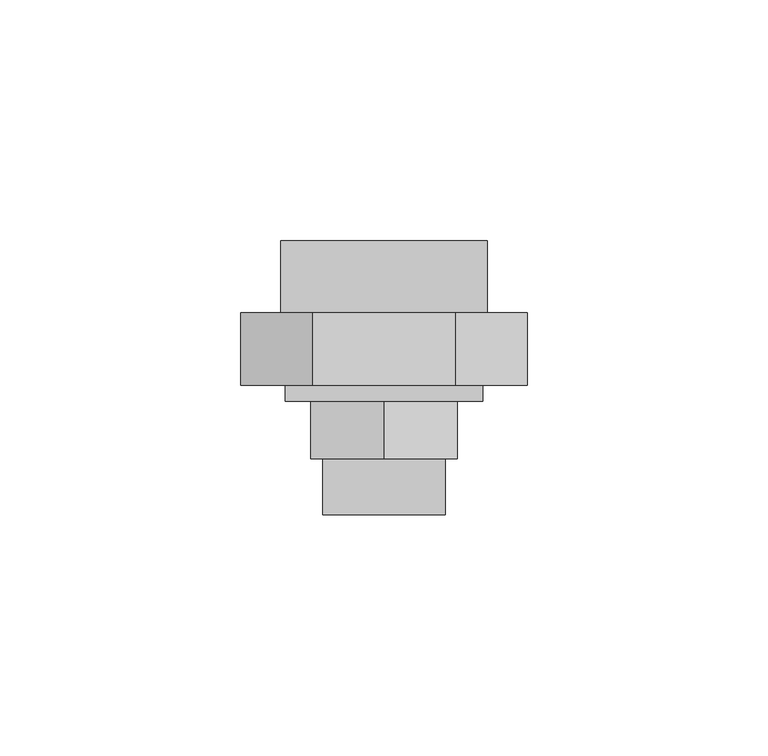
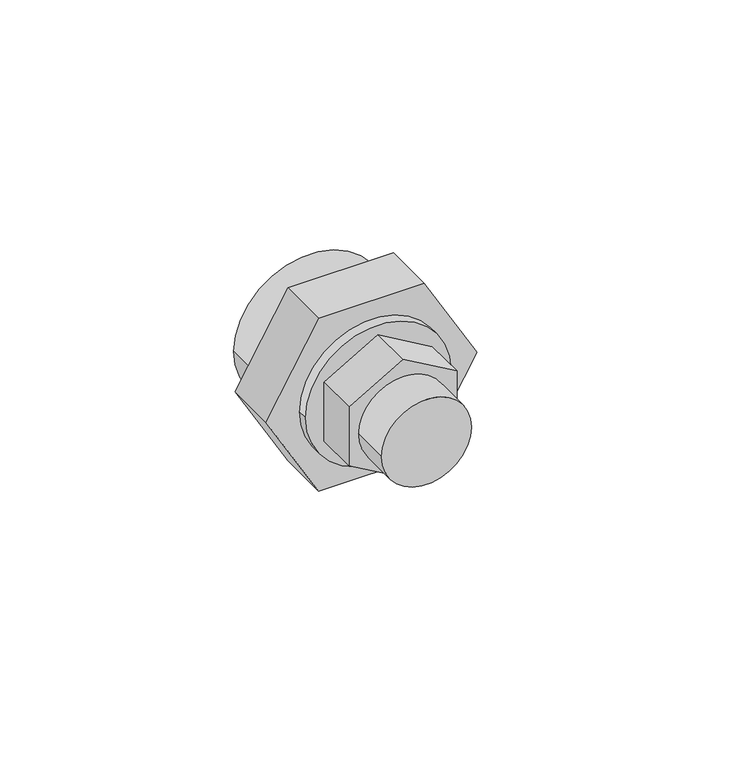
"""IFC4 building model written with IfcOpenShell, lengths in millimetres: pipe fitting geometry, EGB_VASEN_ PPR_Enlace desmontable rosca macho WXR103 : Enlace desmontable rosca macho WXR103."""

from ifc_helpers import new_model, si_unit, point, frame, origin, origin_2d, place, context, project, spatial, polyline, circle_curve, trimmed, segment, composite_curve, outline, extrude, source, transform, mapped, element, save


def pipe_fitting_40733e78(model_context):
    return source(origin(), model_context, "Body", "SweptSolid", [
        extrude(outline(polyline([(-8.7988181, -15.24), (-17.5976362, 0.0), (-8.7988181, 15.24), (8.7988181, 15.24), (17.5976362, 0.0), (8.7988181, -15.24), (-8.7988181, -15.24)])), frame((0.0, -29.7545833, 0.0), z_axis=(0.0, 1.0, 0.0), x_axis=(0.0, 0.0, 1.0)), (0.0, 0.0, 1.0), 12.0),
        extrude(outline(polyline([(0.0, 29.7912739), (25.8, 14.8956369), (25.8, -14.8956369), (0.0, -29.7912739), (-25.8, -14.8956369), (-25.8, 14.8956369), (0.0, 29.7912739)])), frame((0.0, -14.3870833, 0.0), z_axis=(0.0, 1.0, 0.0), x_axis=(0.0, 0.0, 1.0)), (0.0, 0.0, 1.0), 15.0),
        extrude(outline(composite_curve([segment(trimmed(circle_curve(origin_2d(), 12.7), [point((0.0, -12.7))], [point((0.0, 12.7))], False, "CARTESIAN"), True, "CONTINUOUS"), segment(trimmed(circle_curve(origin_2d(), 12.7), [point((0.0, 12.7))], [point((0.0, -12.7))], False, "CARTESIAN"), True, "CONTINUOUS")], self_intersect=False)), frame((0.0, -41.3870833, 0.0), z_axis=(0.0, 1.0, 0.0), x_axis=(0.0, 0.0, 1.0)), (0.0, 0.0, 1.0), 12.0),
        extrude(outline(composite_curve([segment(trimmed(circle_curve(origin_2d(), 20.52), [point((0.0, -20.52))], [point((0.0, 20.52))], False, "CARTESIAN"), True, "CONTINUOUS"), segment(trimmed(circle_curve(origin_2d(), 20.52), [point((0.0, 20.52))], [point((0.0, -20.52))], False, "CARTESIAN"), True, "CONTINUOUS")], self_intersect=False)), frame((0.0, -17.7545833, 0.0), z_axis=(0.0, 1.0, 0.0), x_axis=(0.0, 0.0, 1.0)), (0.0, 0.0, 1.0), 3.3675),
        extrude(outline(composite_curve([segment(trimmed(circle_curve(origin_2d(), 21.5), [point((0.0, -21.5))], [point((0.0, 21.5))], False, "CARTESIAN"), True, "CONTINUOUS"), segment(trimmed(circle_curve(origin_2d(), 21.5), [point((0.0, 21.5))], [point((0.0, -21.5))], False, "CARTESIAN"), True, "CONTINUOUS")], self_intersect=False), holes=[composite_curve([segment(trimmed(circle_curve(origin_2d(), 16.0), [point((0.0, -16.0))], [point((0.0, 16.0))], True, "CARTESIAN"), True, "CONTINUOUS"), segment(trimmed(circle_curve(origin_2d(), 16.0), [point((0.0, 16.0))], [point((0.0, -16.0))], True, "CARTESIAN"), True, "CONTINUOUS")], self_intersect=False)]), frame((0.0, 0.6129167, 0.0), z_axis=(0.0, 1.0, 0.0), x_axis=(0.0, 0.0, 1.0)), (0.0, 0.0, 1.0), 15.0),
    ])


if __name__ == "__main__":
    model = new_model("IFC4")
    model_context = context("Model", 3, world=origin())
    ifc_project = project(units=[si_unit("LENGTHUNIT", "METRE", prefix="MILLI")], contexts=[model_context])
    site = spatial("IfcSite", under=ifc_project)
    building = spatial("IfcBuilding", under=site)
    placement = place(None, origin())
    pipe_fitting_shape = pipe_fitting_40733e78(model_context)
    element("IfcPipeFitting", 1, ObjectType="EGB_VASEN_ PPR_Enlace desmontable rosca macho WXR103 : Enlace desmontable rosca macho WXR103", at=placement, inside=building, context=model_context, shape_type="MappedRepresentation", body=[
        mapped(pipe_fitting_shape, transform((0.0, 0.0, 0.0), x_axis=(1.0, 0.0, 0.0), y_axis=(0.0, 1.0, 0.0), z_axis=(0.0, 0.0, 1.0))),
    ])
    save(model, "model.ifc")
